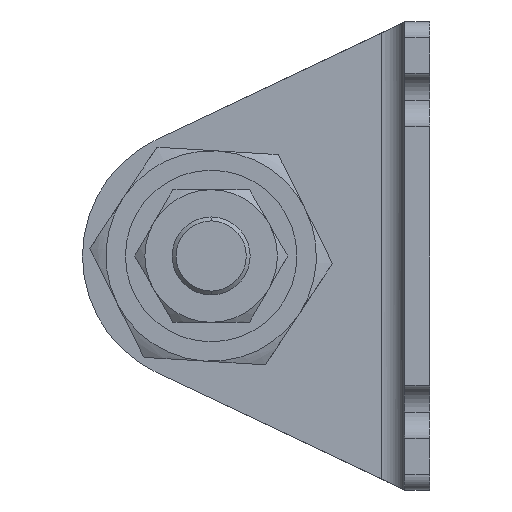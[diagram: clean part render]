
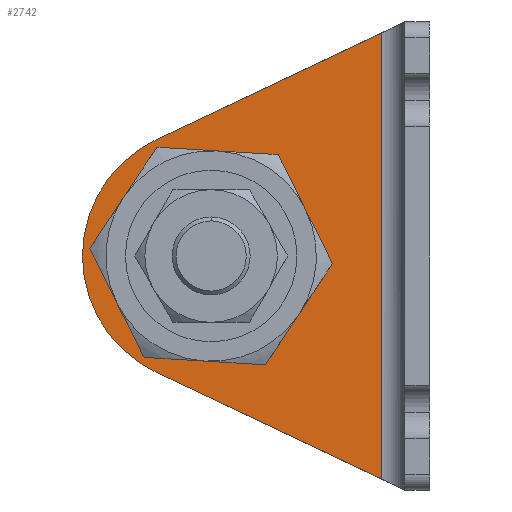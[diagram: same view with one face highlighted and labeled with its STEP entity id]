
A CAD part, left-side view. The second image highlights one B-rep face of the part: STEP entity #2742.
In plain terms, the highlighted planar face has unit normal (-1, 0, 0) as drawn and (1, 0, 0) by its records, which use the part's own axes.
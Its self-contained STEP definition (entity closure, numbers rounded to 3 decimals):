
#157 = ORIENTED_EDGE ( 'NONE', *, *, #3128, .T. ) ;
#184 = CARTESIAN_POINT ( 'NONE',  ( 3.2, 28., -30. ) ) ;
#205 = DIRECTION ( 'NONE',  ( 0., 0.904, -0.428 ) ) ;
#330 = CARTESIAN_POINT ( 'NONE',  ( 3.2, 28., -30. ) ) ;
#357 = CARTESIAN_POINT ( 'NONE',  ( 3.2, 3.2, -60. ) ) ;
#427 = CARTESIAN_POINT ( 'NONE',  ( 3.2, 16.5, -30. ) ) ;
#489 = ORIENTED_EDGE ( 'NONE', *, *, #2012, .F. ) ;
#565 = CARTESIAN_POINT ( 'NONE',  ( 3.2, 6.2, -60. ) ) ;
#622 = DIRECTION ( 'NONE',  ( 0., 1., 0. ) ) ;
#671 = AXIS2_PLACEMENT_3D ( 'NONE', #1648, #2858, #1028 ) ;
#726 = CIRCLE ( 'NONE', #3914, 16.5 ) ;
#727 = AXIS2_PLACEMENT_3D ( 'NONE', #184, #3819, #2320 ) ;
#830 = LINE ( 'NONE', #2314, #2634 ) ;
#849 = ORIENTED_EDGE ( 'NONE', *, *, #3738, .F. ) ;
#852 = AXIS2_PLACEMENT_3D ( 'NONE', #357, #989, #3059 ) ;
#889 = VERTEX_POINT ( 'NONE', #427 ) ;
#989 = DIRECTION ( 'NONE',  ( 1., 0., 0. ) ) ;
#1017 = EDGE_CURVE ( 'NONE', #2623, #889, #1962, .T. ) ;
#1028 = DIRECTION ( 'NONE',  ( 0., 1., 0. ) ) ;
#1194 = VERTEX_POINT ( 'NONE', #1595 ) ;
#1321 = CARTESIAN_POINT ( 'NONE',  ( 3.2, 6.2, -1.421 ) ) ;
#1463 = VECTOR ( 'NONE', #1479, 1000. ) ;
#1479 = DIRECTION ( 'NONE',  ( 0., 0., -1. ) ) ;
#1527 = CARTESIAN_POINT ( 'NONE',  ( 3.2, 3.2, -60. ) ) ;
#1542 = EDGE_CURVE ( 'NONE', #2142, #1194, #2075, .T. ) ;
#1595 = CARTESIAN_POINT ( 'NONE',  ( 3.2, 35.062, -44.913 ) ) ;
#1604 = AXIS2_PLACEMENT_3D ( 'NONE', #330, #3649, #622 ) ;
#1620 = CARTESIAN_POINT ( 'NONE',  ( 3.2, 39.5, -30. ) ) ;
#1648 = CARTESIAN_POINT ( 'NONE',  ( 3.2, 28., -30. ) ) ;
#1831 = FACE_OUTER_BOUND ( 'NONE', #3554, .T. ) ;
#1962 = CIRCLE ( 'NONE', #1604, 11.5 ) ;
#2012 = EDGE_CURVE ( 'NONE', #889, #2623, #2454, .T. ) ;
#2075 = LINE ( 'NONE', #1527, #2358 ) ;
#2079 = CARTESIAN_POINT ( 'NONE',  ( 3.2, 28., -30. ) ) ;
#2142 = VERTEX_POINT ( 'NONE', #2660 ) ;
#2213 = EDGE_CURVE ( 'NONE', #3358, #3680, #3064, .T. ) ;
#2314 = CARTESIAN_POINT ( 'NONE',  ( 3.2, 26.408, -10.99 ) ) ;
#2320 = DIRECTION ( 'NONE',  ( 0., 1., 0. ) ) ;
#2358 = VECTOR ( 'NONE', #2430, 1000. ) ;
#2372 = DIRECTION ( 'NONE',  ( 1., 0., 0. ) ) ;
#2377 = EDGE_CURVE ( 'NONE', #2650, #2142, #2920, .T. ) ;
#2430 = DIRECTION ( 'NONE',  ( 0., 0.904, 0.428 ) ) ;
#2454 = CIRCLE ( 'NONE', #671, 11.5 ) ;
#2481 = ORIENTED_EDGE ( 'NONE', *, *, #1542, .T. ) ;
#2623 = VERTEX_POINT ( 'NONE', #1620 ) ;
#2634 = VECTOR ( 'NONE', #205, 1000. ) ;
#2639 = ORIENTED_EDGE ( 'NONE', *, *, #2213, .T. ) ;
#2650 = VERTEX_POINT ( 'NONE', #1321 ) ;
#2660 = CARTESIAN_POINT ( 'NONE',  ( 3.2, 6.2, -58.579 ) ) ;
#2742 = ADVANCED_FACE ( 'NONE', ( #1831, #3451 ), #2800, .T. ) ;
#2800 = PLANE ( 'NONE',  #852 ) ;
#2829 = CARTESIAN_POINT ( 'NONE',  ( 3.2, 44.5, -30. ) ) ;
#2858 = DIRECTION ( 'NONE',  ( 1., 0., 0. ) ) ;
#2875 = ORIENTED_EDGE ( 'NONE', *, *, #2377, .T. ) ;
#2920 = LINE ( 'NONE', #565, #1463 ) ;
#3059 = DIRECTION ( 'NONE',  ( 0., 1., 0. ) ) ;
#3064 = CIRCLE ( 'NONE', #727, 16.5 ) ;
#3128 = EDGE_CURVE ( 'NONE', #1194, #3358, #726, .T. ) ;
#3243 = CARTESIAN_POINT ( 'NONE',  ( 3.2, 35.062, -15.087 ) ) ;
#3324 = EDGE_LOOP ( 'NONE', ( #3399, #489 ) ) ;
#3358 = VERTEX_POINT ( 'NONE', #2829 ) ;
#3399 = ORIENTED_EDGE ( 'NONE', *, *, #1017, .F. ) ;
#3451 = FACE_BOUND ( 'NONE', #3324, .T. ) ;
#3554 = EDGE_LOOP ( 'NONE', ( #849, #2875, #2481, #157, #2639 ) ) ;
#3576 = DIRECTION ( 'NONE',  ( 0., 1., 0. ) ) ;
#3649 = DIRECTION ( 'NONE',  ( 1., 0., 0. ) ) ;
#3680 = VERTEX_POINT ( 'NONE', #3243 ) ;
#3738 = EDGE_CURVE ( 'NONE', #2650, #3680, #830, .T. ) ;
#3819 = DIRECTION ( 'NONE',  ( 1., 0., 0. ) ) ;
#3914 = AXIS2_PLACEMENT_3D ( 'NONE', #2079, #2372, #3576 ) ;
